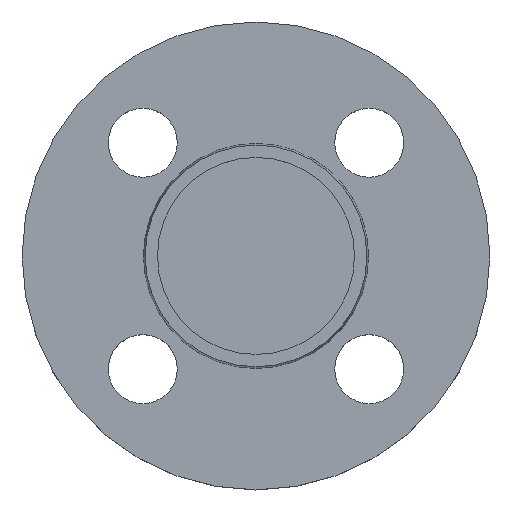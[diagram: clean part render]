
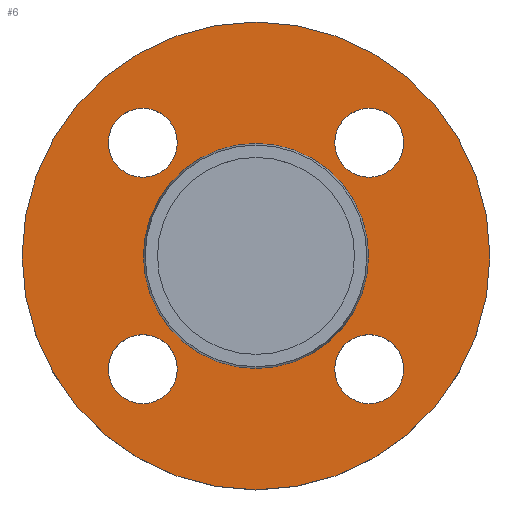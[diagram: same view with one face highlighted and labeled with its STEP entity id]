
A CAD part, top view. The second image highlights one B-rep face of the part: STEP entity #6.
In plain terms, the highlighted planar face has unit normal (0, 0, 1).
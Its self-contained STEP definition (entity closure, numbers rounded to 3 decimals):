
#6 = ADVANCED_FACE ( 'NONE', ( #726, #727, #728, #730, #731, #733 ), #735, .T. ) ;
#8 = AXIS2_PLACEMENT_3D ( 'NONE', #814, #815, #816 ) ;
#10 = CIRCLE ( 'NONE', #8, 7. ) ;
#23 = DIRECTION ( 'NONE',  ( 1., 0., 0. ) ) ;
#24 = DIRECTION ( 'NONE',  ( 0., 0., -1. ) ) ;
#26 = CARTESIAN_POINT ( 'NONE',  ( -22.981, -22.981, -2. ) ) ;
#45 = CIRCLE ( 'NONE', #668, 7. ) ;
#74 = EDGE_CURVE ( 'NONE', #719, #480, #139, .T. ) ;
#78 = AXIS2_PLACEMENT_3D ( 'NONE', #804, #805, #806 ) ;
#80 = CIRCLE ( 'NONE', #78, 22.853 ) ;
#98 = CARTESIAN_POINT ( 'NONE',  ( -29.981, 22.981, -2. ) ) ;
#116 = CARTESIAN_POINT ( 'NONE',  ( -22.853, 0., -2. ) ) ;
#125 = CARTESIAN_POINT ( 'NONE',  ( 29.981, 22.981, -2. ) ) ;
#128 = EDGE_CURVE ( 'NONE', #700, #491, #80, .T. ) ;
#133 = CARTESIAN_POINT ( 'NONE',  ( 15.981, 22.981, -2. ) ) ;
#135 = CARTESIAN_POINT ( 'NONE',  ( 22.981, 22.981, -2. ) ) ;
#139 = CIRCLE ( 'NONE', #445, 7. ) ;
#142 = EDGE_CURVE ( 'NONE', #580, #499, #10, .T. ) ;
#159 = DIRECTION ( 'NONE',  ( 1., 0., 0. ) ) ;
#160 = DIRECTION ( 'NONE',  ( 0., 0., -1. ) ) ;
#162 = CARTESIAN_POINT ( 'NONE',  ( 22.981, -22.981, -2. ) ) ;
#168 = EDGE_CURVE ( 'NONE', #561, #464, #573, .T. ) ;
#198 = CARTESIAN_POINT ( 'NONE',  ( -15.981, 22.981, -2. ) ) ;
#207 = DIRECTION ( 'NONE',  ( 1., 0., 0. ) ) ;
#208 = DIRECTION ( 'NONE',  ( 0., 0., -1. ) ) ;
#212 = AXIS2_PLACEMENT_3D ( 'NONE', #274, #275, #276 ) ;
#218 = CARTESIAN_POINT ( 'NONE',  ( 47.5, 0., -2. ) ) ;
#224 = CARTESIAN_POINT ( 'NONE',  ( 15.981, -22.981, -2. ) ) ;
#237 = AXIS2_PLACEMENT_3D ( 'NONE', #287, #288, #289 ) ;
#238 = CARTESIAN_POINT ( 'NONE',  ( -15.981, -22.981, -2. ) ) ;
#241 = CIRCLE ( 'NONE', #724, 47.5 ) ;
#247 = AXIS2_PLACEMENT_3D ( 'NONE', #277, #278, #280 ) ;
#248 = CIRCLE ( 'NONE', #247, 47.5 ) ;
#274 = CARTESIAN_POINT ( 'NONE',  ( 0., 0., -2. ) ) ;
#275 = DIRECTION ( 'NONE',  ( 0., 0., -1. ) ) ;
#276 = DIRECTION ( 'NONE',  ( -1., 0., 0. ) ) ;
#277 = CARTESIAN_POINT ( 'NONE',  ( 0., 0., -2. ) ) ;
#278 = DIRECTION ( 'NONE',  ( 0., 0., -1. ) ) ;
#280 = DIRECTION ( 'NONE',  ( -1., 0., 0. ) ) ;
#281 = AXIS2_PLACEMENT_3D ( 'NONE', #821, #822, #823 ) ;
#282 = CARTESIAN_POINT ( 'NONE',  ( 0., 0., -2. ) ) ;
#285 = DIRECTION ( 'NONE',  ( 0., 0., -1. ) ) ;
#286 = DIRECTION ( 'NONE',  ( -1., 0., 0. ) ) ;
#287 = CARTESIAN_POINT ( 'NONE',  ( 22.981, 22.981, -2. ) ) ;
#288 = DIRECTION ( 'NONE',  ( 0., 0., -1. ) ) ;
#289 = DIRECTION ( 'NONE',  ( 1., 0., 0. ) ) ;
#294 = CIRCLE ( 'NONE', #237, 7. ) ;
#313 = EDGE_CURVE ( 'NONE', #491, #700, #527, .T. ) ;
#319 = EDGE_CURVE ( 'NONE', #479, #471, #248, .T. ) ;
#326 = CARTESIAN_POINT ( 'NONE',  ( -22.981, 22.981, -2. ) ) ;
#327 = DIRECTION ( 'NONE',  ( 0., 0., -1. ) ) ;
#328 = DIRECTION ( 'NONE',  ( 1., 0., 0. ) ) ;
#344 = EDGE_CURVE ( 'NONE', #471, #479, #241, .T. ) ;
#348 = EDGE_CURVE ( 'NONE', #678, #697, #294, .T. ) ;
#372 = CIRCLE ( 'NONE', #430, 7. ) ;
#389 = CARTESIAN_POINT ( 'NONE',  ( 29.981, -22.981, -2. ) ) ;
#396 = CARTESIAN_POINT ( 'NONE',  ( -29.981, -22.981, -2. ) ) ;
#405 = CARTESIAN_POINT ( 'NONE',  ( -47.5, 0., -2. ) ) ;
#408 = CARTESIAN_POINT ( 'NONE',  ( 22.853, 0., -2. ) ) ;
#414 = EDGE_CURVE ( 'NONE', #480, #719, #372, .T. ) ;
#426 = AXIS2_PLACEMENT_3D ( 'NONE', #26, #24, #23 ) ;
#427 = CIRCLE ( 'NONE', #426, 7. ) ;
#430 = AXIS2_PLACEMENT_3D ( 'NONE', #326, #327, #328 ) ;
#445 = AXIS2_PLACEMENT_3D ( 'NONE', #779, #781, #782 ) ;
#455 = AXIS2_PLACEMENT_3D ( 'NONE', #736, #737, #738 ) ;
#464 = VERTEX_POINT ( 'NONE', #389 ) ;
#471 = VERTEX_POINT ( 'NONE', #405 ) ;
#475 = EDGE_LOOP ( 'NONE', ( #591, #593 ) ) ;
#479 = VERTEX_POINT ( 'NONE', #218 ) ;
#480 = VERTEX_POINT ( 'NONE', #198 ) ;
#484 = AXIS2_PLACEMENT_3D ( 'NONE', #162, #160, #159 ) ;
#491 = VERTEX_POINT ( 'NONE', #408 ) ;
#497 = CIRCLE ( 'NONE', #484, 7. ) ;
#499 = VERTEX_POINT ( 'NONE', #238 ) ;
#512 = EDGE_LOOP ( 'NONE', ( #604, #605 ) ) ;
#527 = CIRCLE ( 'NONE', #212, 22.853 ) ;
#528 = EDGE_CURVE ( 'NONE', #697, #678, #45, .T. ) ;
#561 = VERTEX_POINT ( 'NONE', #224 ) ;
#573 = CIRCLE ( 'NONE', #281, 7. ) ;
#580 = VERTEX_POINT ( 'NONE', #396 ) ;
#591 = ORIENTED_EDGE ( 'NONE', *, *, #615, .T. ) ;
#593 = ORIENTED_EDGE ( 'NONE', *, *, #168, .T. ) ;
#594 = ORIENTED_EDGE ( 'NONE', *, *, #819, .T. ) ;
#595 = EDGE_LOOP ( 'NONE', ( #602, #603 ) ) ;
#598 = ORIENTED_EDGE ( 'NONE', *, *, #142, .T. ) ;
#599 = ORIENTED_EDGE ( 'NONE', *, *, #414, .T. ) ;
#600 = ORIENTED_EDGE ( 'NONE', *, *, #74, .T. ) ;
#602 = ORIENTED_EDGE ( 'NONE', *, *, #528, .T. ) ;
#603 = ORIENTED_EDGE ( 'NONE', *, *, #348, .T. ) ;
#604 = ORIENTED_EDGE ( 'NONE', *, *, #128, .T. ) ;
#605 = ORIENTED_EDGE ( 'NONE', *, *, #313, .T. ) ;
#606 = ORIENTED_EDGE ( 'NONE', *, *, #319, .F. ) ;
#607 = ORIENTED_EDGE ( 'NONE', *, *, #344, .F. ) ;
#615 = EDGE_CURVE ( 'NONE', #464, #561, #497, .T. ) ;
#668 = AXIS2_PLACEMENT_3D ( 'NONE', #135, #208, #207 ) ;
#678 = VERTEX_POINT ( 'NONE', #133 ) ;
#691 = EDGE_LOOP ( 'NONE', ( #599, #600 ) ) ;
#697 = VERTEX_POINT ( 'NONE', #125 ) ;
#700 = VERTEX_POINT ( 'NONE', #116 ) ;
#702 = EDGE_LOOP ( 'NONE', ( #594, #598 ) ) ;
#706 = EDGE_LOOP ( 'NONE', ( #606, #607 ) ) ;
#719 = VERTEX_POINT ( 'NONE', #98 ) ;
#724 = AXIS2_PLACEMENT_3D ( 'NONE', #282, #285, #286 ) ;
#726 = FACE_BOUND ( 'NONE', #475, .T. ) ;
#727 = FACE_BOUND ( 'NONE', #702, .T. ) ;
#728 = FACE_BOUND ( 'NONE', #691, .T. ) ;
#730 = FACE_BOUND ( 'NONE', #595, .T. ) ;
#731 = FACE_BOUND ( 'NONE', #512, .T. ) ;
#733 = FACE_OUTER_BOUND ( 'NONE', #706, .T. ) ;
#735 = PLANE ( 'NONE',  #455 ) ;
#736 = CARTESIAN_POINT ( 'NONE',  ( 22.853, 0., -2. ) ) ;
#737 = DIRECTION ( 'NONE',  ( 0., 0., 1. ) ) ;
#738 = DIRECTION ( 'NONE',  ( 1., 0., 0. ) ) ;
#779 = CARTESIAN_POINT ( 'NONE',  ( -22.981, 22.981, -2. ) ) ;
#781 = DIRECTION ( 'NONE',  ( 0., 0., -1. ) ) ;
#782 = DIRECTION ( 'NONE',  ( 1., 0., 0. ) ) ;
#804 = CARTESIAN_POINT ( 'NONE',  ( 0., 0., -2. ) ) ;
#805 = DIRECTION ( 'NONE',  ( 0., 0., -1. ) ) ;
#806 = DIRECTION ( 'NONE',  ( -1., 0., 0. ) ) ;
#814 = CARTESIAN_POINT ( 'NONE',  ( -22.981, -22.981, -2. ) ) ;
#815 = DIRECTION ( 'NONE',  ( 0., 0., -1. ) ) ;
#816 = DIRECTION ( 'NONE',  ( 1., 0., 0. ) ) ;
#819 = EDGE_CURVE ( 'NONE', #499, #580, #427, .T. ) ;
#821 = CARTESIAN_POINT ( 'NONE',  ( 22.981, -22.981, -2. ) ) ;
#822 = DIRECTION ( 'NONE',  ( 0., 0., -1. ) ) ;
#823 = DIRECTION ( 'NONE',  ( 1., 0., 0. ) ) ;
